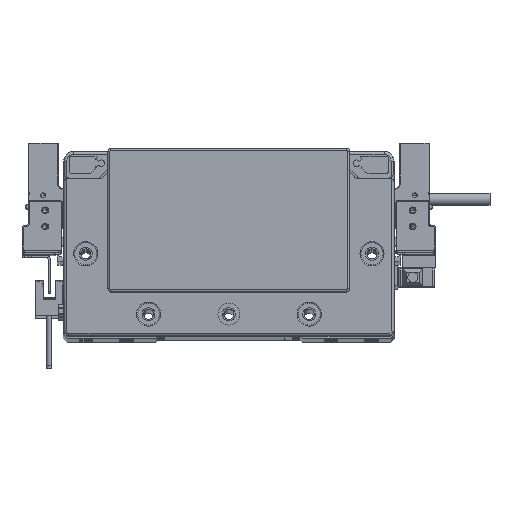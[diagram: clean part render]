
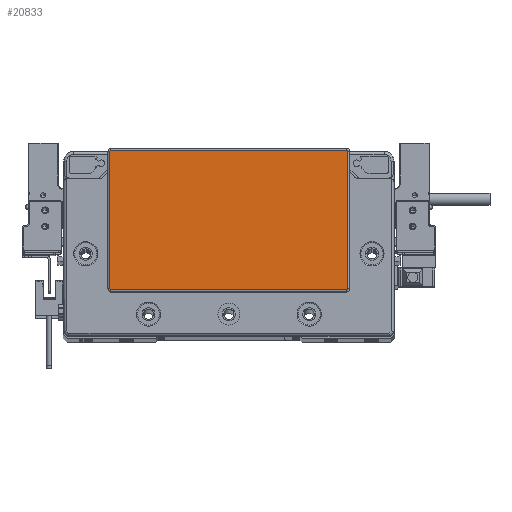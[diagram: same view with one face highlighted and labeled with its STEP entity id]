
A CAD part, top view. The second image highlights one B-rep face of the part: STEP entity #20833.
In plain terms, the highlighted planar face has unit normal (0, 0, 1) as drawn and (0, 0, -1) by its records, which use the part's own axes.
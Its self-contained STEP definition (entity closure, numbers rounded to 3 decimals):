
#1904 = CIRCLE ( 'NONE', #89004, 0.5 ) ;
#2134 = CARTESIAN_POINT ( 'NONE',  ( 58.75, 45.8, -2. ) ) ;
#5044 = VERTEX_POINT ( 'NONE', #44971 ) ;
#9104 = CARTESIAN_POINT ( 'NONE',  ( -59.25, 45.3, -2. ) ) ;
#9788 = CARTESIAN_POINT ( 'NONE',  ( 58.75, 45.3, -2. ) ) ;
#10406 = DIRECTION ( 'NONE',  ( -1., 0., 0. ) ) ;
#14555 = VERTEX_POINT ( 'NONE', #19520 ) ;
#15079 = ORIENTED_EDGE ( 'NONE', *, *, #37618, .T. ) ;
#16416 = ORIENTED_EDGE ( 'NONE', *, *, #50067, .T. ) ;
#19520 = CARTESIAN_POINT ( 'NONE',  ( 58.75, 45.8, -2. ) ) ;
#20833 = ADVANCED_FACE ( 'NONE', ( #26000 ), #61524, .T. ) ;
#21668 = VERTEX_POINT ( 'NONE', #47668 ) ;
#22449 = VECTOR ( 'NONE', #88749, 1000. ) ;
#23114 = DIRECTION ( 'NONE',  ( 1., 0., 0. ) ) ;
#24402 = CIRCLE ( 'NONE', #61705, 0.5 ) ;
#26000 = FACE_OUTER_BOUND ( 'NONE', #29564, .T. ) ;
#26117 = CIRCLE ( 'NONE', #40079, 0.5 ) ;
#27092 = CARTESIAN_POINT ( 'NONE',  ( 59.25, 45.3, -2. ) ) ;
#27094 = EDGE_CURVE ( 'NONE', #14555, #59147, #1904, .T. ) ;
#28410 = LINE ( 'NONE', #50326, #22449 ) ;
#28597 = DIRECTION ( 'NONE',  ( 0., 0., -1. ) ) ;
#29534 = CARTESIAN_POINT ( 'NONE',  ( 59.25, -23.3, -2. ) ) ;
#29554 = EDGE_CURVE ( 'NONE', #5044, #14555, #59614, .T. ) ;
#29564 = EDGE_LOOP ( 'NONE', ( #15079, #35487, #47396, #16416, #42463, #91244, #94646, #74855 ) ) ;
#30356 = VERTEX_POINT ( 'NONE', #9104 ) ;
#31587 = DIRECTION ( 'NONE',  ( 0., 0., -1. ) ) ;
#31847 = CARTESIAN_POINT ( 'NONE',  ( 0., 0., -2. ) ) ;
#31908 = AXIS2_PLACEMENT_3D ( 'NONE', #44646, #28597, #58279 ) ;
#34360 = CARTESIAN_POINT ( 'NONE',  ( -59.25, -23.3, -2. ) ) ;
#35487 = ORIENTED_EDGE ( 'NONE', *, *, #48656, .T. ) ;
#37618 = EDGE_CURVE ( 'NONE', #59147, #21668, #96201, .T. ) ;
#38513 = DIRECTION ( 'NONE',  ( 0., 0., -1. ) ) ;
#39969 = DIRECTION ( 'NONE',  ( -1., 0., 0. ) ) ;
#40079 = AXIS2_PLACEMENT_3D ( 'NONE', #42362, #72487, #72018 ) ;
#42362 = CARTESIAN_POINT ( 'NONE',  ( -58.75, 45.3, -2. ) ) ;
#42463 = ORIENTED_EDGE ( 'NONE', *, *, #67423, .T. ) ;
#42811 = VERTEX_POINT ( 'NONE', #60598 ) ;
#43456 = CARTESIAN_POINT ( 'NONE',  ( -58.75, -23.3, -2. ) ) ;
#44296 = VECTOR ( 'NONE', #59214, 1000. ) ;
#44646 = CARTESIAN_POINT ( 'NONE',  ( 58.75, -23.3, -2. ) ) ;
#44971 = CARTESIAN_POINT ( 'NONE',  ( -58.75, 45.8, -2. ) ) ;
#47396 = ORIENTED_EDGE ( 'NONE', *, *, #91251, .T. ) ;
#47436 = DIRECTION ( 'NONE',  ( -1., 0., 0. ) ) ;
#47668 = CARTESIAN_POINT ( 'NONE',  ( 59.25, -23.3, -2. ) ) ;
#47896 = DIRECTION ( 'NONE',  ( 0., 0., -1. ) ) ;
#48656 = EDGE_CURVE ( 'NONE', #21668, #75160, #62962, .T. ) ;
#50067 = EDGE_CURVE ( 'NONE', #42811, #50719, #24402, .T. ) ;
#50326 = CARTESIAN_POINT ( 'NONE',  ( -59.25, 45.3, -2. ) ) ;
#50719 = VERTEX_POINT ( 'NONE', #34360 ) ;
#51222 = DIRECTION ( 'NONE',  ( -1., 0., 0. ) ) ;
#58279 = DIRECTION ( 'NONE',  ( -1., 0., 0. ) ) ;
#59147 = VERTEX_POINT ( 'NONE', #27092 ) ;
#59214 = DIRECTION ( 'NONE',  ( 0., -1., 0. ) ) ;
#59614 = LINE ( 'NONE', #2134, #72474 ) ;
#60598 = CARTESIAN_POINT ( 'NONE',  ( -58.75, -23.8, -2. ) ) ;
#61524 = PLANE ( 'NONE',  #72610 ) ;
#61705 = AXIS2_PLACEMENT_3D ( 'NONE', #43456, #31587, #51222 ) ;
#62962 = CIRCLE ( 'NONE', #31908, 0.5 ) ;
#67423 = EDGE_CURVE ( 'NONE', #50719, #30356, #28410, .T. ) ;
#72018 = DIRECTION ( 'NONE',  ( -1., 0., 0. ) ) ;
#72474 = VECTOR ( 'NONE', #23114, 1000. ) ;
#72487 = DIRECTION ( 'NONE',  ( 0., 0., -1. ) ) ;
#72610 = AXIS2_PLACEMENT_3D ( 'NONE', #31847, #47896, #10406 ) ;
#74855 = ORIENTED_EDGE ( 'NONE', *, *, #27094, .T. ) ;
#75160 = VERTEX_POINT ( 'NONE', #81906 ) ;
#76442 = VECTOR ( 'NONE', #47436, 1000. ) ;
#79548 = EDGE_CURVE ( 'NONE', #30356, #5044, #26117, .T. ) ;
#81906 = CARTESIAN_POINT ( 'NONE',  ( 58.75, -23.8, -2. ) ) ;
#85870 = LINE ( 'NONE', #86343, #76442 ) ;
#86343 = CARTESIAN_POINT ( 'NONE',  ( -58.75, -23.8, -2. ) ) ;
#88749 = DIRECTION ( 'NONE',  ( 0., 1., 0. ) ) ;
#89004 = AXIS2_PLACEMENT_3D ( 'NONE', #9788, #38513, #39969 ) ;
#91244 = ORIENTED_EDGE ( 'NONE', *, *, #79548, .T. ) ;
#91251 = EDGE_CURVE ( 'NONE', #75160, #42811, #85870, .T. ) ;
#94646 = ORIENTED_EDGE ( 'NONE', *, *, #29554, .T. ) ;
#96201 = LINE ( 'NONE', #29534, #44296 ) ;
